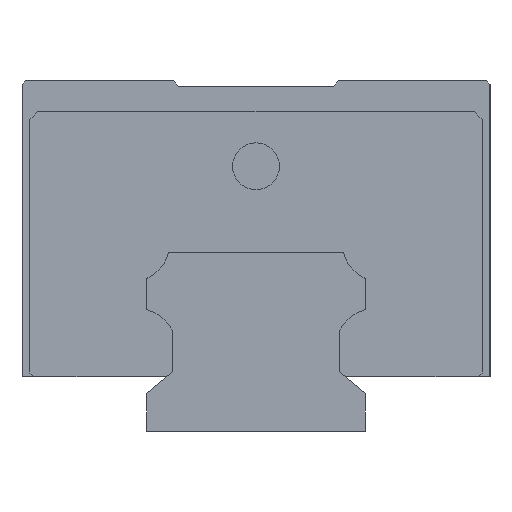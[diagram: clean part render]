
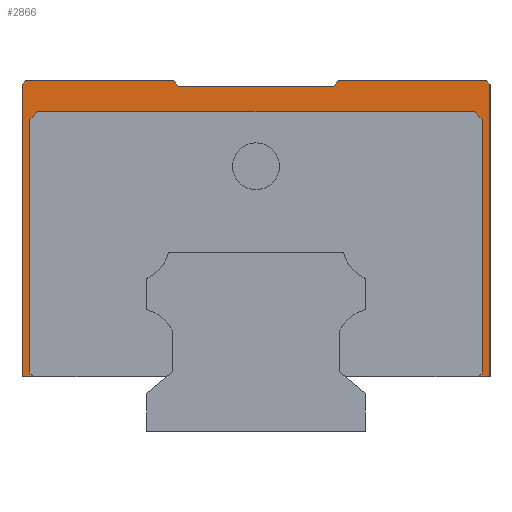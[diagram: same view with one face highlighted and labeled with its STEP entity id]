
A CAD part, left-side view. The second image highlights one B-rep face of the part: STEP entity #2866.
In plain terms, the highlighted planar face has unit normal (-1, 0, 0).
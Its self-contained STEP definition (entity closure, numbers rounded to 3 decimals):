
#27 = DIRECTION ( 'NONE',  ( 0., 0., -1. ) ) ;
#127 = DIRECTION ( 'NONE',  ( 0., 1., 0. ) ) ;
#149 = ORIENTED_EDGE ( 'NONE', *, *, #574, .F. ) ;
#277 = VERTEX_POINT ( 'NONE', #2218 ) ;
#285 = CARTESIAN_POINT ( 'NONE',  ( -52.5, 30., 7. ) ) ;
#364 = DIRECTION ( 'NONE',  ( 0., 1., 0. ) ) ;
#398 = ORIENTED_EDGE ( 'NONE', *, *, #4744, .F. ) ;
#407 = CARTESIAN_POINT ( 'NONE',  ( -52.5, -10.629, 45. ) ) ;
#574 = EDGE_CURVE ( 'NONE', #277, #2854, #5186, .T. ) ;
#686 = VECTOR ( 'NONE', #4065, 1000. ) ;
#689 = LINE ( 'NONE', #2022, #4831 ) ;
#710 = EDGE_CURVE ( 'NONE', #3430, #4027, #2626, .T. ) ;
#770 = ORIENTED_EDGE ( 'NONE', *, *, #1822, .T. ) ;
#838 = LINE ( 'NONE', #407, #3797 ) ;
#891 = CARTESIAN_POINT ( 'NONE',  ( -52.5, -29., 7.5 ) ) ;
#905 = CARTESIAN_POINT ( 'NONE',  ( -52.5, 10., 44.25 ) ) ;
#908 = EDGE_CURVE ( 'NONE', #4825, #3878, #3720, .T. ) ;
#913 = CARTESIAN_POINT ( 'NONE',  ( -52.5, 29., 7.5 ) ) ;
#918 = VERTEX_POINT ( 'NONE', #1107 ) ;
#973 = CARTESIAN_POINT ( 'NONE',  ( -52.5, -30., 44.5 ) ) ;
#1000 = DIRECTION ( 'NONE',  ( 1., 0., 0. ) ) ;
#1030 = FACE_OUTER_BOUND ( 'NONE', #2655, .T. ) ;
#1044 = VECTOR ( 'NONE', #4967, 1000. ) ;
#1107 = CARTESIAN_POINT ( 'NONE',  ( -52.5, 29.5, 45. ) ) ;
#1149 = DIRECTION ( 'NONE',  ( 0., -1., 0. ) ) ;
#1193 = CARTESIAN_POINT ( 'NONE',  ( -52.5, -28., 41. ) ) ;
#1289 = DIRECTION ( 'NONE',  ( 0., 0.707, -0.707 ) ) ;
#1296 = LINE ( 'NONE', #4461, #3625 ) ;
#1317 = CARTESIAN_POINT ( 'NONE',  ( -52.5, 29.5, 45. ) ) ;
#1341 = LINE ( 'NONE', #5385, #1044 ) ;
#1346 = LINE ( 'NONE', #1317, #686 ) ;
#1382 = CARTESIAN_POINT ( 'NONE',  ( -52.5, 28.5, 7. ) ) ;
#1400 = AXIS2_PLACEMENT_3D ( 'NONE', #4627, #1000, #127 ) ;
#1415 = VECTOR ( 'NONE', #1289, 1000. ) ;
#1462 = DIRECTION ( 'NONE',  ( 0., -1., 0. ) ) ;
#1528 = EDGE_CURVE ( 'NONE', #5503, #2854, #1341, .T. ) ;
#1530 = VECTOR ( 'NONE', #3631, 1000. ) ;
#1578 = CARTESIAN_POINT ( 'NONE',  ( -52.5, -28., 41. ) ) ;
#1579 = EDGE_CURVE ( 'NONE', #3878, #5383, #3360, .T. ) ;
#1613 = VECTOR ( 'NONE', #1462, 1000. ) ;
#1699 = CARTESIAN_POINT ( 'NONE',  ( -52.5, 29., 40. ) ) ;
#1723 = DIRECTION ( 'NONE',  ( 0., -1., 0. ) ) ;
#1725 = VERTEX_POINT ( 'NONE', #4004 ) ;
#1822 = EDGE_CURVE ( 'NONE', #277, #3624, #838, .T. ) ;
#1909 = VERTEX_POINT ( 'NONE', #4084 ) ;
#2022 = CARTESIAN_POINT ( 'NONE',  ( -52.5, -30., 45. ) ) ;
#2062 = ORIENTED_EDGE ( 'NONE', *, *, #908, .T. ) ;
#2176 = VECTOR ( 'NONE', #5345, 1000. ) ;
#2195 = LINE ( 'NONE', #913, #5543 ) ;
#2204 = DIRECTION ( 'NONE',  ( 0., 0.643, -0.766 ) ) ;
#2205 = VECTOR ( 'NONE', #5702, 1000. ) ;
#2217 = LINE ( 'NONE', #5422, #4325 ) ;
#2218 = CARTESIAN_POINT ( 'NONE',  ( -52.5, -10.629, 45. ) ) ;
#2246 = CARTESIAN_POINT ( 'NONE',  ( -52.5, 10.629, 45. ) ) ;
#2324 = DIRECTION ( 'NONE',  ( 0., 1., 0. ) ) ;
#2444 = VECTOR ( 'NONE', #364, 1000. ) ;
#2464 = DIRECTION ( 'NONE',  ( 0., 0., -1. ) ) ;
#2574 = LINE ( 'NONE', #5659, #2444 ) ;
#2626 = LINE ( 'NONE', #4478, #1415 ) ;
#2655 = EDGE_LOOP ( 'NONE', ( #2897, #3197, #5571, #4263, #2062, #5786, #5015, #3310, #398, #4002, #5579, #149, #770, #5742, #4250, #2879, #3398, #5051 ) ) ;
#2680 = CARTESIAN_POINT ( 'NONE',  ( -52.5, -10., 44.25 ) ) ;
#2728 = CARTESIAN_POINT ( 'NONE',  ( -52.5, 28.5, 7. ) ) ;
#2771 = CARTESIAN_POINT ( 'NONE',  ( -52.5, 28., 41. ) ) ;
#2854 = VERTEX_POINT ( 'NONE', #2895 ) ;
#2866 = ADVANCED_FACE ( 'NONE', ( #1030 ), #5482, .F. ) ;
#2879 = ORIENTED_EDGE ( 'NONE', *, *, #5388, .F. ) ;
#2895 = CARTESIAN_POINT ( 'NONE',  ( -52.5, -29.5, 45. ) ) ;
#2897 = ORIENTED_EDGE ( 'NONE', *, *, #3014, .F. ) ;
#2927 = VECTOR ( 'NONE', #1149, 1000. ) ;
#3014 = EDGE_CURVE ( 'NONE', #3367, #4214, #2574, .T. ) ;
#3085 = EDGE_CURVE ( 'NONE', #4214, #1909, #2217, .T. ) ;
#3197 = ORIENTED_EDGE ( 'NONE', *, *, #3992, .T. ) ;
#3207 = CARTESIAN_POINT ( 'NONE',  ( -52.5, -29., 40. ) ) ;
#3250 = VERTEX_POINT ( 'NONE', #3911 ) ;
#3310 = ORIENTED_EDGE ( 'NONE', *, *, #710, .T. ) ;
#3360 = LINE ( 'NONE', #1578, #4540 ) ;
#3367 = VERTEX_POINT ( 'NONE', #1382 ) ;
#3379 = CARTESIAN_POINT ( 'NONE',  ( -52.5, -30., 7. ) ) ;
#3398 = ORIENTED_EDGE ( 'NONE', *, *, #4784, .T. ) ;
#3417 = VERTEX_POINT ( 'NONE', #2246 ) ;
#3427 = VERTEX_POINT ( 'NONE', #3639 ) ;
#3430 = VERTEX_POINT ( 'NONE', #891 ) ;
#3455 = EDGE_CURVE ( 'NONE', #3250, #3427, #2195, .T. ) ;
#3499 = CARTESIAN_POINT ( 'NONE',  ( -52.5, -29., 40. ) ) ;
#3574 = EDGE_CURVE ( 'NONE', #5383, #3430, #5412, .T. ) ;
#3611 = DIRECTION ( 'NONE',  ( 0., 0., 1. ) ) ;
#3624 = VERTEX_POINT ( 'NONE', #2680 ) ;
#3625 = VECTOR ( 'NONE', #1723, 1000. ) ;
#3631 = DIRECTION ( 'NONE',  ( 0., 0.643, 0.766 ) ) ;
#3639 = CARTESIAN_POINT ( 'NONE',  ( -52.5, 29., 40. ) ) ;
#3720 = LINE ( 'NONE', #5499, #1613 ) ;
#3722 = LINE ( 'NONE', #5560, #4982 ) ;
#3797 = VECTOR ( 'NONE', #2204, 1000. ) ;
#3878 = VERTEX_POINT ( 'NONE', #1193 ) ;
#3911 = CARTESIAN_POINT ( 'NONE',  ( -52.5, 29., 7.5 ) ) ;
#3992 = EDGE_CURVE ( 'NONE', #3367, #3250, #4960, .T. ) ;
#3997 = DIRECTION ( 'NONE',  ( 0., 0., 1. ) ) ;
#4002 = ORIENTED_EDGE ( 'NONE', *, *, #5180, .F. ) ;
#4004 = CARTESIAN_POINT ( 'NONE',  ( -52.5, 10., 44.25 ) ) ;
#4027 = VERTEX_POINT ( 'NONE', #4902 ) ;
#4065 = DIRECTION ( 'NONE',  ( 0., 0.707, -0.707 ) ) ;
#4084 = CARTESIAN_POINT ( 'NONE',  ( -52.5, 30., 44.5 ) ) ;
#4181 = DIRECTION ( 'NONE',  ( 0., 1., 0. ) ) ;
#4214 = VERTEX_POINT ( 'NONE', #285 ) ;
#4250 = ORIENTED_EDGE ( 'NONE', *, *, #4735, .T. ) ;
#4263 = ORIENTED_EDGE ( 'NONE', *, *, #5020, .T. ) ;
#4321 = LINE ( 'NONE', #1699, #2205 ) ;
#4325 = VECTOR ( 'NONE', #3611, 1000. ) ;
#4461 = CARTESIAN_POINT ( 'NONE',  ( -52.5, 30., 45. ) ) ;
#4478 = CARTESIAN_POINT ( 'NONE',  ( -52.5, -29., 7.5 ) ) ;
#4525 = EDGE_CURVE ( 'NONE', #3624, #1725, #3722, .T. ) ;
#4536 = LINE ( 'NONE', #5390, #4827 ) ;
#4540 = VECTOR ( 'NONE', #4666, 1000. ) ;
#4627 = CARTESIAN_POINT ( 'NONE',  ( -52.5, -30., 45. ) ) ;
#4666 = DIRECTION ( 'NONE',  ( 0., -0.707, -0.707 ) ) ;
#4735 = EDGE_CURVE ( 'NONE', #1725, #3417, #4970, .T. ) ;
#4744 = EDGE_CURVE ( 'NONE', #5169, #4027, #4536, .T. ) ;
#4784 = EDGE_CURVE ( 'NONE', #918, #1909, #1346, .T. ) ;
#4825 = VERTEX_POINT ( 'NONE', #2771 ) ;
#4827 = VECTOR ( 'NONE', #2324, 1000. ) ;
#4831 = VECTOR ( 'NONE', #2464, 1000. ) ;
#4902 = CARTESIAN_POINT ( 'NONE',  ( -52.5, -28.5, 7. ) ) ;
#4960 = LINE ( 'NONE', #2728, #2176 ) ;
#4967 = DIRECTION ( 'NONE',  ( 0., 0.707, 0.707 ) ) ;
#4970 = LINE ( 'NONE', #905, #1530 ) ;
#4982 = VECTOR ( 'NONE', #4181, 1000. ) ;
#5015 = ORIENTED_EDGE ( 'NONE', *, *, #3574, .T. ) ;
#5020 = EDGE_CURVE ( 'NONE', #3427, #4825, #4321, .T. ) ;
#5051 = ORIENTED_EDGE ( 'NONE', *, *, #3085, .F. ) ;
#5169 = VERTEX_POINT ( 'NONE', #3379 ) ;
#5180 = EDGE_CURVE ( 'NONE', #5503, #5169, #689, .T. ) ;
#5186 = LINE ( 'NONE', #5275, #2927 ) ;
#5275 = CARTESIAN_POINT ( 'NONE',  ( -52.5, 30., 45. ) ) ;
#5345 = DIRECTION ( 'NONE',  ( 0., 0.707, 0.707 ) ) ;
#5383 = VERTEX_POINT ( 'NONE', #3499 ) ;
#5385 = CARTESIAN_POINT ( 'NONE',  ( -52.5, -30., 44.5 ) ) ;
#5388 = EDGE_CURVE ( 'NONE', #918, #3417, #1296, .T. ) ;
#5390 = CARTESIAN_POINT ( 'NONE',  ( -52.5, -30., 7. ) ) ;
#5412 = LINE ( 'NONE', #3207, #5454 ) ;
#5422 = CARTESIAN_POINT ( 'NONE',  ( -52.5, 30., 7. ) ) ;
#5454 = VECTOR ( 'NONE', #27, 1000. ) ;
#5482 = PLANE ( 'NONE',  #1400 ) ;
#5499 = CARTESIAN_POINT ( 'NONE',  ( -52.5, 28., 41. ) ) ;
#5503 = VERTEX_POINT ( 'NONE', #973 ) ;
#5543 = VECTOR ( 'NONE', #3997, 1000. ) ;
#5560 = CARTESIAN_POINT ( 'NONE',  ( -52.5, -10., 44.25 ) ) ;
#5571 = ORIENTED_EDGE ( 'NONE', *, *, #3455, .T. ) ;
#5579 = ORIENTED_EDGE ( 'NONE', *, *, #1528, .T. ) ;
#5659 = CARTESIAN_POINT ( 'NONE',  ( -52.5, 11.769, 7. ) ) ;
#5702 = DIRECTION ( 'NONE',  ( 0., -0.707, 0.707 ) ) ;
#5742 = ORIENTED_EDGE ( 'NONE', *, *, #4525, .T. ) ;
#5786 = ORIENTED_EDGE ( 'NONE', *, *, #1579, .T. ) ;
